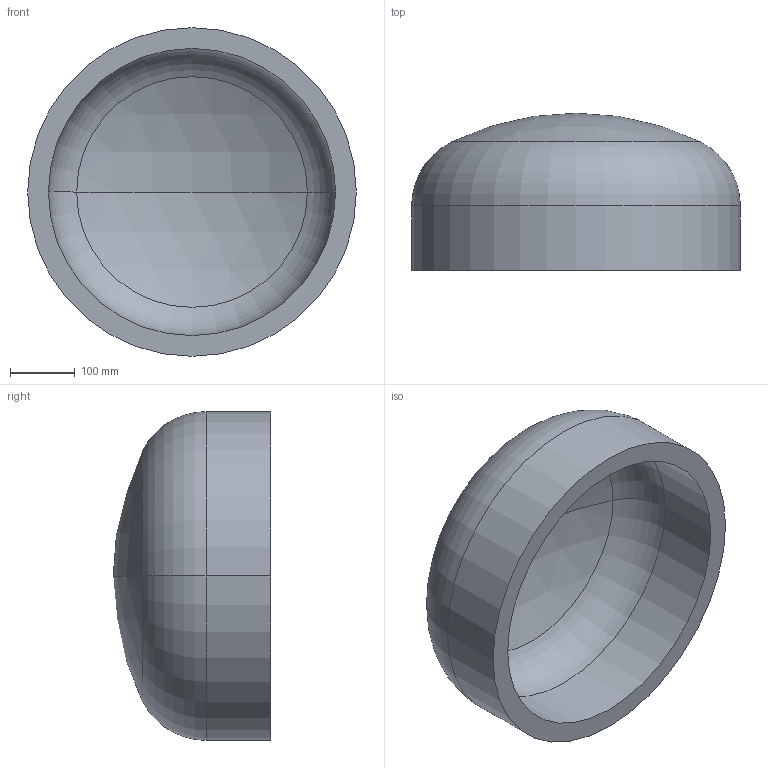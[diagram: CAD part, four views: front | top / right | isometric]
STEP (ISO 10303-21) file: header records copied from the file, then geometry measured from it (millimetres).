
FILE_DESCRIPTION (( 'STEP AP203' ), '1' );
FILE_NAME ('DIN 28013 Korbbogenform_-_Boden DIN 28013 - 508 x 100 - I - s=32.step', '2016-07-01T07:54:01', ( '' ), ( '' ), 'SwSTEP 2.0', 'SolidWorks 2013', '' );
FILE_SCHEMA (( 'CONFIG_CONTROL_DESIGN' ));
Length unit declared in the file: millimetre
Products named in the file (1): DIN 28013 Korbbogenform_-_Boden DIN 28013 - 508 x 100 - I - s=32
Bounding box: 508 x 243.3 x 508 mm (x, y, z)
Volume: 13071883.7 mm3; surface area: 866990 mm2
Topology: 1 solids, 1 shells, 13 faces, 24 edges, 14 vertices
Faces by surface type: torus 4, cylinder 4, sphere 4, plane 1
Entity records: 407 total; most frequent: DIRECTION 72, CARTESIAN_POINT 52, ORIENTED_EDGE 48, AXIS2_PLACEMENT_3D 34, EDGE_CURVE 24, CIRCLE 20, EDGE_LOOP 14, VERTEX_POINT 14
